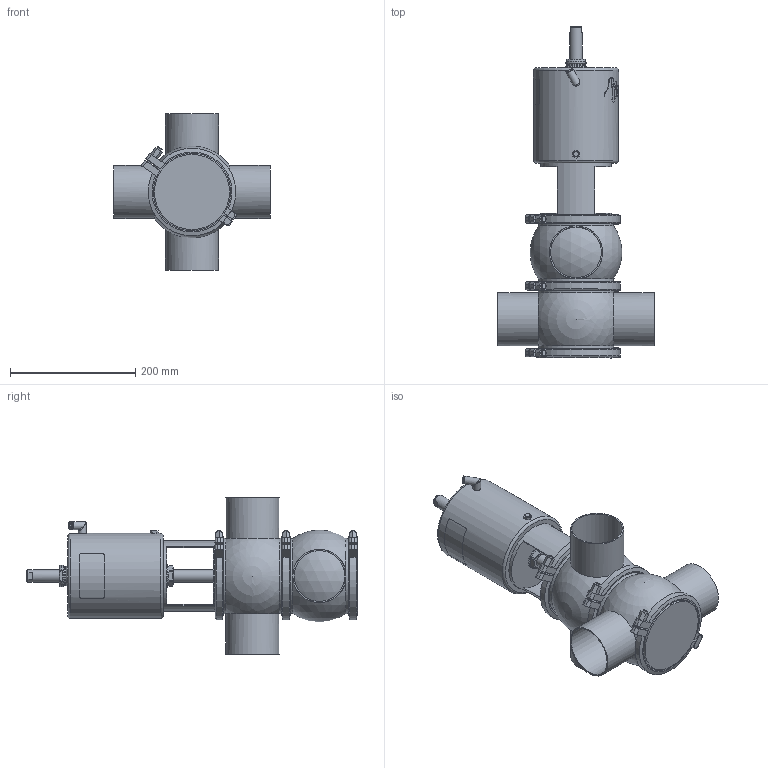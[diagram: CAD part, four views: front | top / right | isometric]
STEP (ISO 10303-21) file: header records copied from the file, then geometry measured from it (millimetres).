
FILE_DESCRIPTION (( 'STEP AP214' ), '1' );
FILE_NAME ('INNOVA M C W DIN 080 T3 AS NC_10.241.16.0007.STEP', '2024-08-07T12:40:50', ( '' ), ( '' ), 'SwSTEP 2.0', 'SolidWorks 2023', '' );
FILE_SCHEMA (( 'AUTOMOTIVE_DESIGN' ));
Length unit declared in the file: millimetre
Products named in the file (6): INNOVA M C W DIN 080 T3 AS NC_10.241.16.0007; 10.240.15.0007_DIN 080; 10.240.15.0001_DN 080; 10.240.15.0014_T3 AS P180; 10.240.15.0010_DN 080; 10.241.15.0001_DIN 080
Assembly tree (8 placements, depth 2):
  INNOVA M C W DIN 080 T3 AS NC_10.241.16.0007
    10.240.15.0007_DIN 080  x2
    10.240.15.0010_DN 080
    10.240.15.0014_T3 AS P180
    10.240.15.0001_DN 080  x3
    10.241.15.0001_DIN 080
Bounding box: 250 x 530.63 x 250 mm (x, y, z)
Volume: 5898999.8 mm3; surface area: 566031.9 mm2
Topology: 9 solids, 9 shells, 469 faces, 1253 edges, 817 vertices
Faces by surface type: plane 227, cylinder 114, bspline 80, cone 36, sphere 8, torus 4
Full cylindrical faces by diameter (mm): 6.15 x1, 8 x7, 8.5 x1, 10.5 x1, 12.5 x3, 16 x1, 20 x2, 31 x1, 34.5 x2, 36.5 x1, 81 x4, 85 x4, 113 x1, 120 x5, 132 x6, 136 x1
Entity records: 20540 total; most frequent: CARTESIAN_POINT 11314, ORIENTED_EDGE 1616, DIRECTION 1231, EDGE_CURVE 808, VERTEX_POINT 555, AXIS2_PLACEMENT_3D 471, EDGE_LOOP 405, FACE_OUTER_BOUND 366
